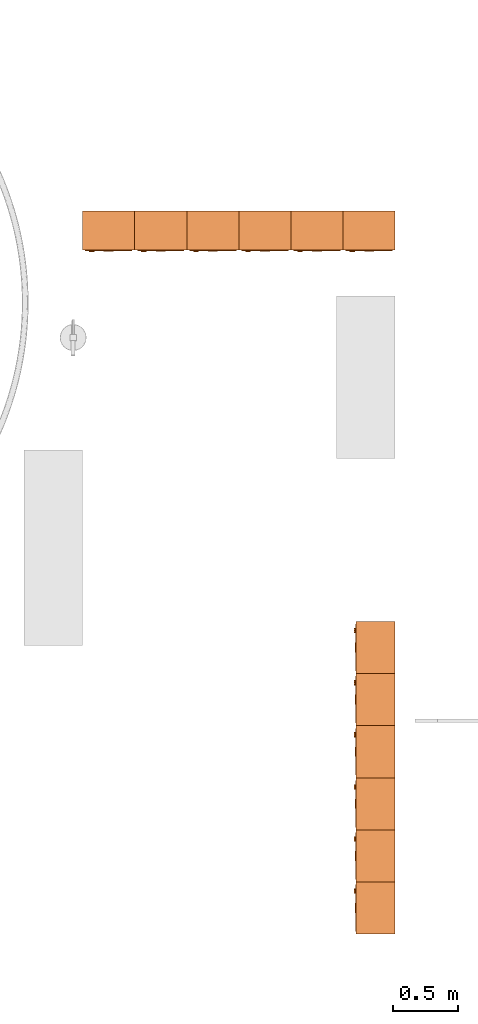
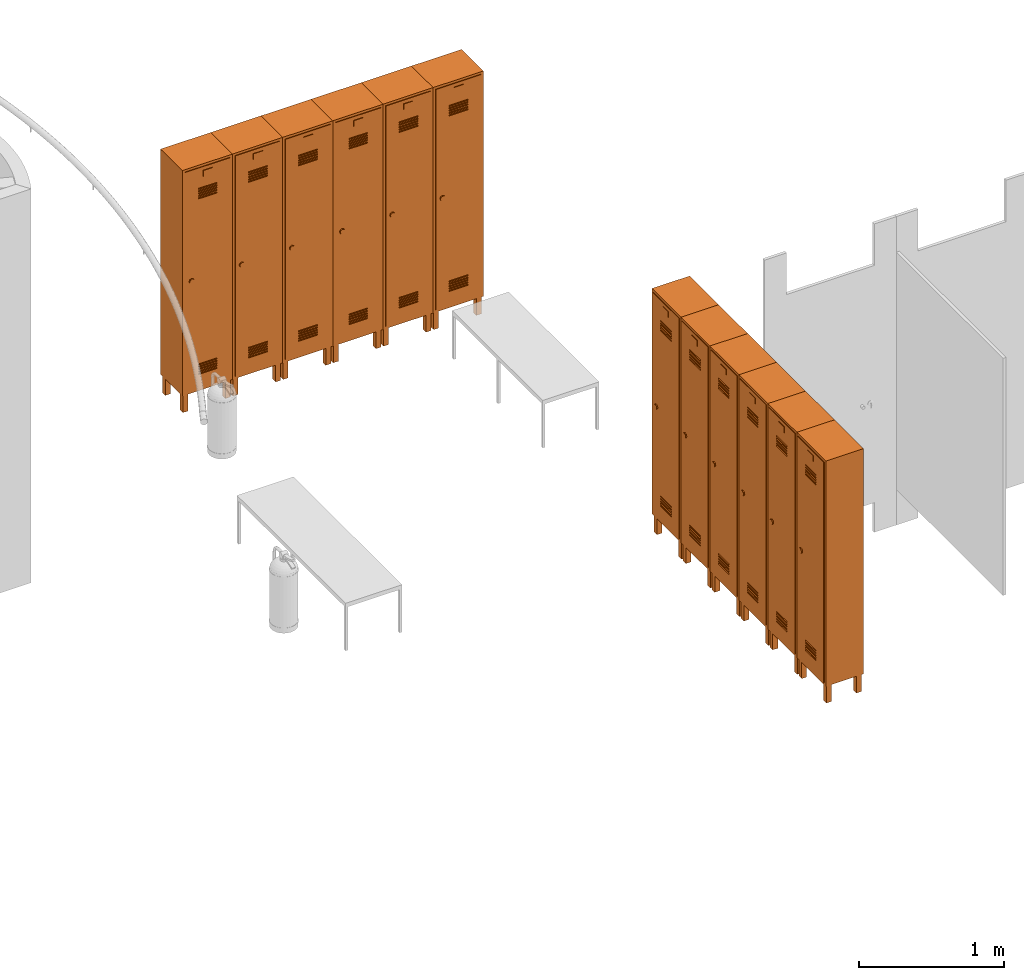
# One storey, part 8 of 9: 12 proxies.
"""IFC4 building model written with IfcOpenShell, lengths in millimetres."""

from ifc_helpers import new_model, entity, si_unit, converted_unit, derived_unit, direction, frame, origin_with_axes, place, context, subcontext, project, spatial, polygons, source, transform, mapped, type_object, element, save


model = new_model("IFC4")

# Units and contexts
model_context = context("Model", 3, precision=0.01, world=origin_with_axes(), true_north=direction((0.0, 1.0)))
body_context = subcontext(model_context, "Body", "Model", "MODEL_VIEW")
ifc_project = project(units=[si_unit("LENGTHUNIT", "METRE", prefix="MILLI"), si_unit("AREAUNIT", "SQUARE_METRE"), si_unit("VOLUMEUNIT", "CUBIC_METRE"), converted_unit("PLANEANGLEUNIT", "DEGREE", entity("IfcPlaneAngleMeasure", 0.0174532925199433), si_unit("PLANEANGLEUNIT", "RADIAN"), dimensions=[0, 0, 0, 0, 0, 0, 0]), converted_unit("TIMEUNIT", "Year", entity("IfcTimeMeasure", 31557600.0), si_unit("TIMEUNIT", "SECOND"), dimensions=[0, 0, 1, 0, 0, 0, 0]), si_unit("MASSUNIT", "GRAM", prefix="KILO"), si_unit("THERMODYNAMICTEMPERATUREUNIT", "DEGREE_CELSIUS"), si_unit("LUMINOUSINTENSITYUNIT", "LUMEN"), si_unit("ENERGYUNIT", "JOULE", prefix="MEGA"), derived_unit("THERMALCONDUCTANCEUNIT", [(si_unit("POWERUNIT", "WATT"), 1), (si_unit("LENGTHUNIT", "METRE"), -1), (si_unit("THERMODYNAMICTEMPERATUREUNIT", "KELVIN"), -1)]), derived_unit("SPECIFICHEATCAPACITYUNIT", [(si_unit("ENERGYUNIT", "JOULE"), 1), (si_unit("MASSUNIT", "GRAM", prefix="KILO"), -1), (si_unit("THERMODYNAMICTEMPERATUREUNIT", "KELVIN"), -1)]), derived_unit("MASSDENSITYUNIT", [(si_unit("MASSUNIT", "GRAM", prefix="KILO"), 1), (si_unit("VOLUMEUNIT", "CUBIC_METRE"), -1)])], contexts=[model_context])

# Site, building, storey
site_placement = place(None, origin_with_axes())
site = spatial("IfcSite", under=ifc_project, at=site_placement, Name="Exteriér", CompositionType="ELEMENT")
building_placement = place(site_placement, origin_with_axes())
building = spatial("IfcBuilding", under=site, at=building_placement, Name="Univerzitní lezecké centrum", CompositionType="ELEMENT")
storey_placement = place(building_placement, frame((0.0, 0.0, 3200.0), z_axis=(0.0, 0.0, 1.0), x_axis=(1.0, 0.0, 0.0)))
storey = spatial("IfcBuildingStorey", under=building, at=storey_placement, Name="2.NP", CompositionType="ELEMENT", Elevation=3200.0)

# Proxies
building_element_proxy_type = type_object("IfcBuildingElementProxyType", Name="Skříňky 24", PredefinedType="NOTDEFINED")
shared_shape = source(origin_with_axes(), body_context, "Body", "Tessellation", [
    polygons([(9.999999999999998, 9.999999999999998, 0.0), (50.0, 9.999999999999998, 0.0), (50.0, 9.999999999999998, 150.0), (9.999999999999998, 9.999999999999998, 150.0), (9.999999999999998, 50.0, 0.0), (50.0, 50.0, 0.0), (50.0, 50.0, 150.0), (9.999999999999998, 50.0, 150.0)], [[[1, 2, 3, 4]], [[1, 5, 6, 2]], [[2, 6, 7, 3]], [[4, 3, 7, 8]], [[5, 1, 4, 8]], [[6, 5, 8, 7]]], closed=True),
    polygons([(350.0, 9.999999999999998, 0.0), (390.0, 9.999999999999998, 0.0), (390.0, 9.999999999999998, 150.0), (350.0, 9.999999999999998, 150.0), (350.0, 50.0, 0.0), (390.0, 50.0, 0.0), (390.0, 50.0, 150.0), (350.0, 50.0, 150.0)], [[[1, 2, 3, 4]], [[1, 5, 6, 2]], [[2, 6, 7, 3]], [[4, 3, 7, 8]], [[5, 1, 4, 8]], [[6, 5, 8, 7]]], closed=True),
    polygons([(9.999999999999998, 250.0, 0.0), (50.0, 250.0, 0.0), (50.0, 250.0, 150.0), (9.999999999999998, 250.0, 150.0), (9.999999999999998, 290.0000000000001, 0.0), (50.0, 290.0000000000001, 0.0), (50.0, 290.0000000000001, 150.0), (9.999999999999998, 290.0000000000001, 150.0)], [[[1, 2, 3, 4]], [[1, 5, 6, 2]], [[2, 6, 7, 3]], [[4, 3, 7, 8]], [[5, 1, 4, 8]], [[6, 5, 8, 7]]], closed=True),
    polygons([(350.0, 250.0, 0.0), (390.0, 250.0, 0.0), (390.0, 250.0, 150.0), (350.0, 250.0, 150.0), (350.0, 290.0000000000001, 0.0), (390.0, 290.0000000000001, 0.0), (390.0, 290.0000000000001, 150.0), (350.0, 290.0000000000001, 150.0)], [[[1, 2, 3, 4]], [[1, 5, 6, 2]], [[2, 6, 7, 3]], [[4, 3, 7, 8]], [[5, 1, 4, 8]], [[6, 5, 8, 7]]], closed=True),
    polygons([(0.0, 0.0, 150.0), (0.0, 0.0, 2050.0), (0.0, 279.9999999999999, 2050.0), (0.0, 279.9999999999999, 150.0), (400.0, 0.0, 150.0), (400.0, 0.0, 2050.0), (20.0, 0.0, 170.0), (20.0, 0.0, 2030.0), (380.0, 0.0, 2030.0), (380.0, 0.0, 170.0), (400.0, 279.9999999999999, 2050.0), (400.0, 279.9999999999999, 150.0), (20.0, 279.9999999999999, 170.0), (380.0, 279.9999999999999, 170.0), (380.0, 279.9999999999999, 2030.0), (20.0, 279.9999999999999, 2030.0)], [[[1, 2, 3, 4]], [[1, 5, 6, 2], [7, 8, 9, 10]], [[2, 6, 11, 3]], [[4, 3, 11, 12], [13, 14, 15, 16]], [[5, 1, 4, 12]], [[6, 5, 12, 11]], [[8, 7, 13, 16]], [[9, 8, 16, 15]], [[10, 9, 15, 14]], [[7, 10, 14, 13]]], closed=True),
    polygons([(0.0, 279.9999999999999, 2050.0), (400.0, 279.9999999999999, 2050.0), (400.0, 299.9999999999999, 2050.0), (0.0, 299.9999999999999, 2050.0), (0.0, 279.9999999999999, 150.0), (400.0, 279.9999999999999, 150.0), (400.0, 300.0, 150.0), (0.0, 300.0, 150.0)], [[[1, 2, 3, 4]], [[1, 5, 6, 2]], [[2, 6, 7, 3]], [[4, 3, 7, 8]], [[5, 1, 4, 8]], [[6, 5, 8, 7]]], closed=True),
    polygons([(20.0, 5.0, 170.0), (380.0000000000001, 5.0, 170.0), (380.0000000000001, -5.0, 170.0), (20.0, -5.0, 170.0), (20.0, 5.000000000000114, 2030.0), (380.0000000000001, 5.000000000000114, 2030.0), (125.0, 5.000000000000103, 1850.0), (275.0, 5.000000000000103, 1850.0), (275.0, 5.000000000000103, 1860.0), (125.0, 5.000000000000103, 1860.0), (125.0, 5.000000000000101, 1830.0), (275.0, 5.000000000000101, 1830.0), (275.0, 5.000000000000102, 1840.0), (125.0, 5.000000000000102, 1840.0), (125.0, 5.0000000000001, 1810.0), (275.0, 5.0000000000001, 1810.0), (275.0, 5.0000000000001, 1820.0), (125.0, 5.0000000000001, 1820.0), (125.0, 5.000000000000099, 1790.0), (275.0, 5.000000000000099, 1790.0), (275.0, 5.000000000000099, 1800.0), (125.0, 5.000000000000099, 1800.0), (125.0, 5.000000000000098, 1770.0), (275.0, 5.000000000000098, 1770.0), (275.0, 5.000000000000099, 1780.0), (125.0, 5.000000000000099, 1780.0), (125.0, 5.000000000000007, 290.0), (275.0, 5.000000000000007, 290.0), (275.0, 5.000000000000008, 300.0), (125.0, 5.000000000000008, 300.0), (125.0, 5.000000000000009, 310.0), (275.0, 5.000000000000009, 310.0), (275.0, 5.00000000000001, 319.9999999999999), (125.0, 5.00000000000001, 319.9999999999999), (125.0, 5.00000000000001, 329.9999999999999), (275.0, 5.00000000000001, 329.9999999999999), (275.0, 5.000000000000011, 339.9999999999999), (125.0, 5.000000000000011, 339.9999999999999), (125.0, 5.000000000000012, 350.0), (275.0, 5.000000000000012, 350.0), (275.0, 5.000000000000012, 360.0), (125.0, 5.000000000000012, 360.0), (125.0, 5.000000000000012, 370.0), (275.0, 5.000000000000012, 370.0), (275.0, 5.000000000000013, 380.0), (125.0, 5.000000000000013, 380.0), (380.0000000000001, -4.999999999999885, 2030.0), (20.0, -4.999999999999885, 2030.0), (125.0, -4.999999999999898, 1850.0), (125.0, -4.999999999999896, 1860.0), (275.0, -4.999999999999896, 1860.0), (275.0, -4.999999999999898, 1850.0), (125.0, -4.999999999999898, 1830.0), (125.0, -4.999999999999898, 1840.0), (275.0, -4.999999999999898, 1840.0), (275.0, -4.999999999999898, 1830.0), (125.0, -4.9999999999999, 1810.0), (125.0, -4.9999999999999, 1820.0), (275.0, -4.9999999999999, 1820.0), (275.0, -4.9999999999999, 1810.0), (125.0, -4.999999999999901, 1790.0), (125.0, -4.9999999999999, 1800.0), (275.0, -4.9999999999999, 1800.0), (275.0, -4.999999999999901, 1790.0), (125.0, -4.999999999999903, 1770.0), (125.0, -4.999999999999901, 1780.0), (275.0, -4.999999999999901, 1780.0), (275.0, -4.999999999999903, 1770.0), (125.0, -4.999999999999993, 290.0), (125.0, -4.999999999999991, 300.0), (275.0, -4.999999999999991, 300.0), (275.0, -4.999999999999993, 290.0), (125.0, -4.999999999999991, 310.0), (125.0, -4.999999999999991, 319.9999999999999), (275.0, -4.999999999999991, 319.9999999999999), (275.0, -4.999999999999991, 310.0), (125.0, -4.999999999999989, 329.9999999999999), (125.0, -4.999999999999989, 339.9999999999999), (275.0, -4.999999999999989, 339.9999999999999), (275.0, -4.999999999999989, 329.9999999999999), (125.0, -4.999999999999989, 350.0), (125.0, -4.999999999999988, 360.0), (275.0, -4.999999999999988, 360.0), (275.0, -4.999999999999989, 350.0), (125.0, -4.999999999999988, 370.0), (125.0, -4.999999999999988, 380.0), (275.0, -4.999999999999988, 380.0), (275.0, -4.999999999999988, 370.0)], [[[1, 2, 3, 4]], [[1, 5, 6, 2], [7, 8, 9, 10], [11, 12, 13, 14], [15, 16, 17, 18], [19, 20, 21, 22], [23, 24, 25, 26], [27, 28, 29, 30], [31, 32, 33, 34], [35, 36, 37, 38], [39, 40, 41, 42], [43, 44, 45, 46]], [[2, 6, 47, 3]], [[4, 3, 47, 48], [49, 50, 51, 52], [53, 54, 55, 56], [57, 58, 59, 60], [61, 62, 63, 64], [65, 66, 67, 68], [69, 70, 71, 72], [73, 74, 75, 76], [77, 78, 79, 80], [81, 82, 83, 84], [85, 86, 87, 88]], [[5, 1, 4, 48]], [[6, 5, 48, 47]], [[8, 7, 49, 52]], [[9, 8, 52, 51]], [[10, 9, 51, 50]], [[7, 10, 50, 49]], [[12, 11, 53, 56]], [[13, 12, 56, 55]], [[14, 13, 55, 54]], [[11, 14, 54, 53]], [[16, 15, 57, 60]], [[17, 16, 60, 59]], [[18, 17, 59, 58]], [[15, 18, 58, 57]], [[20, 19, 61, 64]], [[21, 20, 64, 63]], [[22, 21, 63, 62]], [[19, 22, 62, 61]], [[24, 23, 65, 68]], [[25, 24, 68, 67]], [[26, 25, 67, 66]], [[23, 26, 66, 65]], [[28, 27, 69, 72]], [[29, 28, 72, 71]], [[30, 29, 71, 70]], [[27, 30, 70, 69]], [[32, 31, 73, 76]], [[33, 32, 76, 75]], [[34, 33, 75, 74]], [[31, 34, 74, 73]], [[36, 35, 77, 80]], [[37, 36, 80, 79]], [[38, 37, 79, 78]], [[35, 38, 78, 77]], [[40, 39, 81, 84]], [[41, 40, 84, 83]], [[42, 41, 83, 82]], [[39, 42, 82, 81]], [[44, 43, 85, 88]], [[45, 44, 88, 87]], [[46, 45, 87, 86]], [[43, 46, 86, 85]]], closed=True),
    polygons([(237.5, -10.0, 1950.0), (162.5, -10.0, 1950.0), (162.5, -5.0, 1950.0), (237.5, -5.0, 1950.0), (237.5, -10.0, 2000.0), (162.5, -10.0, 2000.0), (162.5, -5.0, 2000.0), (237.5, -5.0, 2000.0)], [[[1, 2, 3, 4]], [[2, 1, 5, 6]], [[3, 2, 6, 7]], [[4, 3, 7, 8]], [[1, 4, 8, 5]], [[6, 5, 8, 7]]], closed=True),
    polygons([(84.14213562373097, -5.000000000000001, 1085.857864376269), (70.0, -5.000000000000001, 1080.0), (55.85786437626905, -5.000000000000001, 1085.857864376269), (50.0, -5.0, 1100.0), (55.85786437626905, -4.999999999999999, 1114.142135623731), (70.0, -4.999999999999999, 1120.0), (84.14213562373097, -4.999999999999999, 1114.142135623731), (90.00000000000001, -5.0, 1100.0), (84.14213562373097, -15.0, 1085.857864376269), (70.0, -15.0, 1080.0), (55.85786437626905, -15.0, 1085.857864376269), (50.0, -15.0, 1100.0), (55.85786437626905, -15.0, 1114.142135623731), (70.0, -15.0, 1120.0), (84.14213562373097, -15.0, 1114.142135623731), (90.00000000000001, -15.0, 1100.0)], [[[1, 2, 3, 4, 5, 6, 7, 8]], [[2, 1, 9, 10]], [[3, 2, 10, 11]], [[4, 3, 11, 12]], [[5, 4, 12, 13]], [[6, 5, 13, 14]], [[7, 6, 14, 15]], [[8, 7, 15, 16]], [[1, 8, 16, 9]], [[9, 16, 15, 14, 13, 12, 11, 10]]], closed=True),
])
for number, where, z_axis, x_axis, name in (
    (1, (7450.055064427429, -349.6127939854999, 0.0), (0.0, 0.0, 1.0), (0.0, -1.0, 0.0), "OV03"),
    (2, (7450.055064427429, -749.6127939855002, 0.0), (0.0, 0.0, 1.0), (0.0, -1.0, 0.0), "OV03"),
    (3, (6950.05506442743, 4099.999999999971, 0.0), (0.0, 0.0, 1.0), (1.0, 0.0, 0.0), "OV03"),
    (4, (5350.05506442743, 4099.999999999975, 0.0), (0.0, 0.0, 1.0), (1.0, 0.0, 0.0), "OV03"),
    (5, (7350.05506442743, 4099.99999999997, 0.0), (0.0, 0.0, 1.0), (1.0, 0.0, 0.0), "OV03"),
    (6, (6550.055064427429, 4099.999999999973, 0.0), (0.0, 0.0, 1.0), (1.0, 0.0, 0.0), "OV03"),
    (7, (6150.055064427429, 4099.999999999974, 0.0), (0.0, 0.0, 1.0), (1.0, 0.0, 0.0), "OV03"),
    (8, (7450.055064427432, 1250.3872060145, 0.0), (0.0, 0.0, 1.0), (0.0, -1.0, 0.0), "OV03"),
    (9, (7450.055064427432, 50.38720601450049, 0.0), (0.0, 0.0, 1.0), (0.0, -1.0, 0.0), "OV03"),
    (10, (7450.055064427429, 850.3872060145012, 0.0), (0.0, 0.0, 1.0), (0.0, -1.0, 0.0), "OV03"),
    (11, (7450.055064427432, 450.3872060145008, 0.0), (0.0, 0.0, 1.0), (0.0, -1.0, 0.0), "OV03"),
    (12, (5750.055064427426, 4099.999999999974, 0.0), (0.0, 0.0, 1.0), (1.0, 0.0, 0.0), "OV03"),
):
    element("IfcBuildingElementProxy", number, at=place(storey_placement, frame(where, z_axis=z_axis, x_axis=x_axis)), inside=storey, type_object=building_element_proxy_type, Name=name, PredefinedType="NOTDEFINED", context=body_context, shape_type="MappedRepresentation", body=[
        mapped(shared_shape, transform((0.0, 0.0, 0.0))),
    ])

save(model, "model.ifc")
